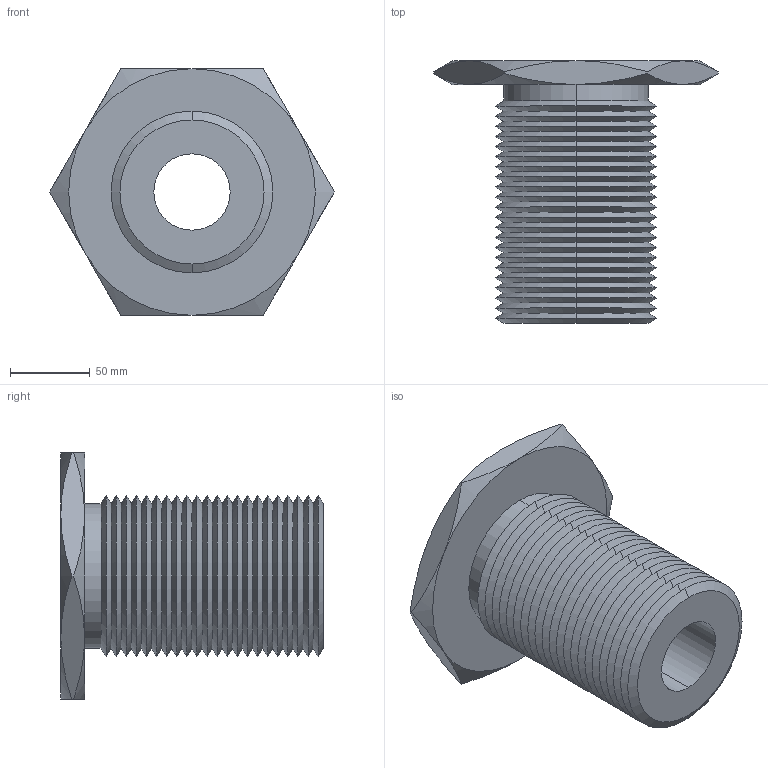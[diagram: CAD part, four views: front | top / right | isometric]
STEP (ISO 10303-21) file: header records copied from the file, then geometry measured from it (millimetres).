
FILE_DESCRIPTION (( 'STEP AP203' ), '1' );
FILE_NAME ('63302.W5400_M48x5.step', '2013-12-08T12:00:36', ( 'User' ), ( '' ), 'SwSTEP 2.0', 'SolidWorks 2009', '' );
FILE_SCHEMA (( 'CONFIG_CONTROL_DESIGN' ));
Length unit declared in the file: millimetre
Products named in the file (1): 63302.W5400_M48x5
Bounding box: 178.98 x 165 x 155 mm (x, y, z)
Volume: 1084231.9 mm3; surface area: 155854.6 mm2
Topology: 1 solids, 1 shells, 115 faces, 234 edges, 122 vertices
Faces by surface type: cone 102, plane 9, cylinder 4
Entity records: 3179 total; most frequent: CARTESIAN_POINT 696, DIRECTION 552, ORIENTED_EDGE 468, EDGE_CURVE 234, AXIS2_PLACEMENT_3D 226, VERTEX_POINT 122, EDGE_LOOP 118, ADVANCED_FACE 115
